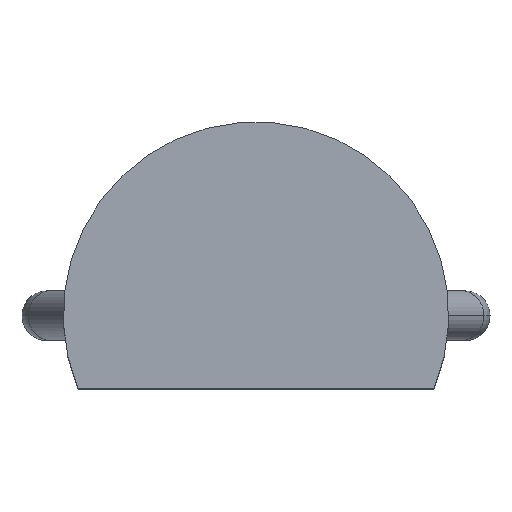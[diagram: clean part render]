
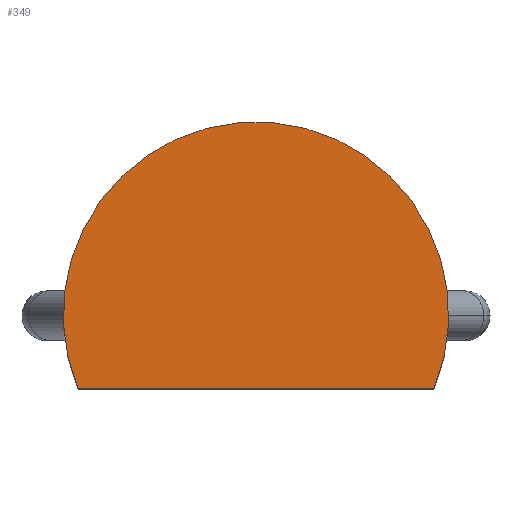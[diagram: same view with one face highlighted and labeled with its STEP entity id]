
A CAD part, top view. The second image highlights one B-rep face of the part: STEP entity #349.
In plain terms, the highlighted planar face has unit normal (0, 0, 1).
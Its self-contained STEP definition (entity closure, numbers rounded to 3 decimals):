
#268=CARTESIAN_POINT('',(4.976,-0.952,4.953));
#267=VERTEX_POINT('',#268);
#278=CARTESIAN_POINT('',(0.404,-0.952,4.953));
#277=VERTEX_POINT('',#278);
#276=EDGE_CURVE('',#277,#267,#281,.T.);
#281=LINE('',#278,#283);
#283=VECTOR('',#284,4.572);
#284=DIRECTION('',(1.0,0.0,0.0));
#305=EDGE_CURVE($,#267,#277,#310,.T.);
#310=CIRCLE($,#311,2.477);
#312=CARTESIAN_POINT('',(2.69,0.0,4.953));
#311=AXIS2_PLACEMENT_3D($,#312,#313,#314);
#313=DIRECTION('',(0.0,0.0,1.0));
#314=DIRECTION('',(-1.0,0.0,0.0));
#349=ADVANCED_FACE($,(#355),#350,.T.);
#350=PLANE($,#351);
#351=AXIS2_PLACEMENT_3D($,#352,#353,#354);
#352=CARTESIAN_POINT('',(2.69,0.0,4.953));
#353=DIRECTION('',(0.,0.,1.));
#354=DIRECTION('',(1.,0.,0.));
#355=FACE_OUTER_BOUND($,#356,.T.);
#356=EDGE_LOOP($,(#357, #368));
#357=ORIENTED_EDGE('',*,*,#276,.T.);
#368=ORIENTED_EDGE('',*,*,#305,.T.);
